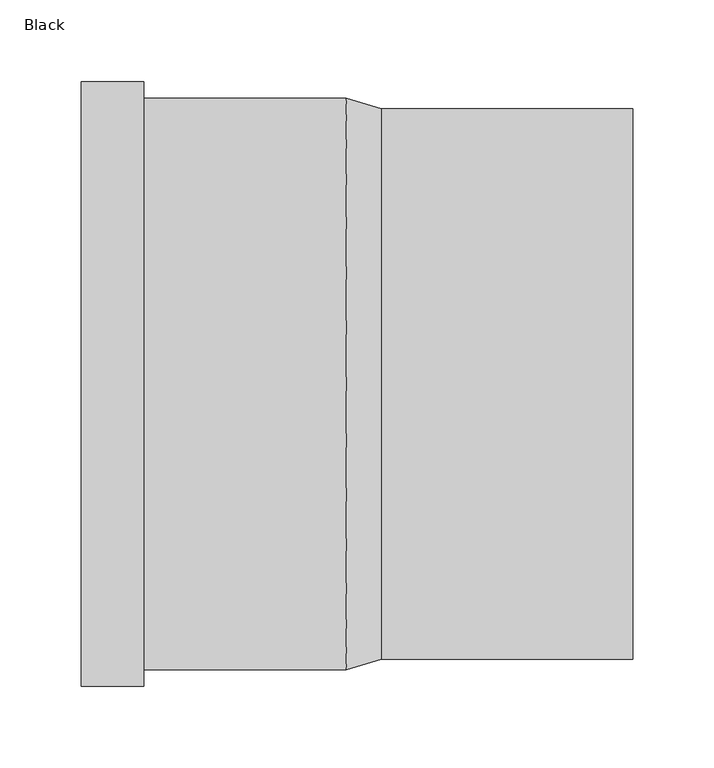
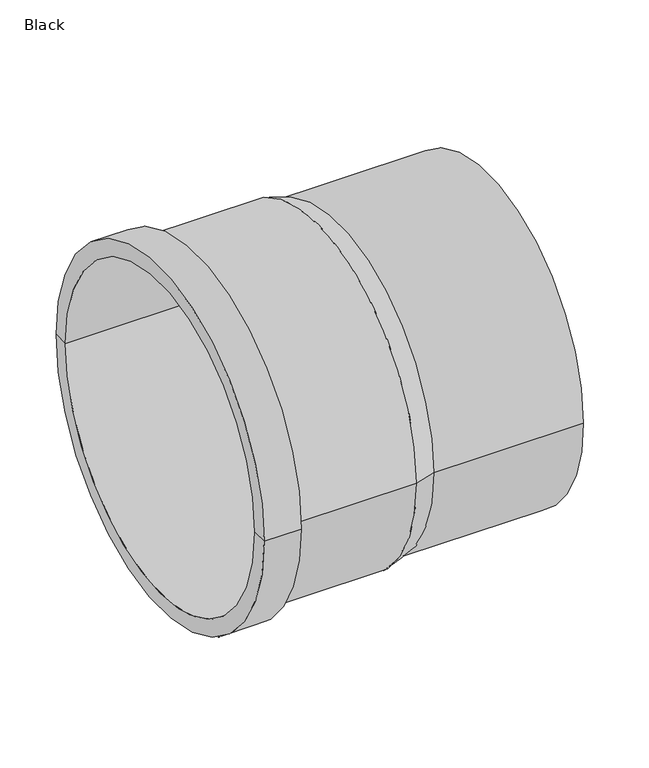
"""IFC4 building model written with IfcOpenShell, lengths in millimetres: pipe fitting geometry, PIF_X-Stream_TransitionCoupler_SocketEnd_X-Stream-PVC_Wavin_(union) : Black."""

from ifc_helpers import new_model, si_unit, point, frame, origin, origin_2d, place, context, project, spatial, polyline, circle_curve, trimmed, segment, composite_curve, outline, extrude, source, transform, mapped, element, save
from ifc_brep_helpers import plane_surface, cylinder_surface, revolved_surface, advanced_brep


def black_22d9a25e(model_context):
    return source(origin(), model_context, "Body", "SolidModel", [
        advanced_brep(
        [(-66.5, 169.0, 0.0), (-66.5, -169.0, 0.0), (-87.8, -175.4, 0.0), (-87.8, 175.4, 0.0), (-66.5, 0.0, 0.0), (-87.8, 169.0, 0.0), (-87.8, -169.0, 0.0), (-87.8, 0.0, 0.0), (-250.5, 169.0, 0.0), (-250.5, -169.0, 0.0), (-250.5, 185.7, 0.0), (-250.5, -185.7, 0.0), (-212.3, 185.7, 0.0), (-212.3, -185.7, 0.0), (-212.3, 175.4, 0.0), (-212.3, -175.4, 0.0)],
        [
            (0, 1, circle_curve(frame((-66.5, 0.0, 0.0), z_axis=(-1.0, 0.0, 0.0), x_axis=(0.0, -1.0, 0.0)), 169.0)),
            (1, 2),
            (2, 3, circle_curve(frame((-87.8, 0.0, 0.0), z_axis=(1.0, 0.0, 0.0), x_axis=(0.0, -1.0, 0.0)), 175.4)),
            (3, 0),
            (1, 0, circle_curve(frame((-66.5, 0.0, 0.0), z_axis=(-1.0, 0.0, 0.0), x_axis=(0.0, -1.0, 0.0)), 169.0)),
            (3, 2, circle_curve(frame((-87.8, 0.0, 0.0), z_axis=(1.0, 0.0, 0.0), x_axis=(0.0, -1.0, 0.0)), 175.4)),
            (4, 1),
            (0, 4),
            (5, 6, circle_curve(frame((-87.8, 0.0, 0.0), z_axis=(-1.0, 0.0, 0.0), x_axis=(0.0, -1.0, 0.0)), 169.0)),
            (6, 7),
            (7, 5),
            (6, 5, circle_curve(frame((-87.8, 0.0, 0.0), z_axis=(-1.0, 0.0, 0.0), x_axis=(0.0, -1.0, 0.0)), 169.0)),
            (8, 9, circle_curve(frame((-250.5, 0.0, 0.0), z_axis=(-1.0, 0.0, 0.0), x_axis=(0.0, -1.0, 0.0)), 169.0)),
            (9, 6),
            (5, 8),
            (9, 8, circle_curve(frame((-250.5, 0.0, 0.0), z_axis=(-1.0, 0.0, 0.0), x_axis=(0.0, -1.0, 0.0)), 169.0)),
            (10, 11, circle_curve(frame((-250.5, 0.0, 0.0), z_axis=(-1.0, 0.0, 0.0), x_axis=(0.0, -1.0, 0.0)), 185.7)),
            (11, 9),
            (8, 10),
            (11, 10, circle_curve(frame((-250.5, 0.0, 0.0), z_axis=(-1.0, 0.0, 0.0), x_axis=(0.0, -1.0, 0.0)), 185.7)),
            (12, 13, circle_curve(frame((-212.3, 0.0, 0.0), z_axis=(-1.0, 0.0, 0.0), x_axis=(0.0, -1.0, 0.0)), 185.7)),
            (13, 11),
            (10, 12),
            (13, 12, circle_curve(frame((-212.3, 0.0, 0.0), z_axis=(-1.0, 0.0, 0.0), x_axis=(0.0, -1.0, 0.0)), 185.7)),
            (14, 15, circle_curve(frame((-212.3, 0.0, 0.0), z_axis=(-1.0, 0.0, 0.0), x_axis=(0.0, -1.0, 0.0)), 175.4)),
            (15, 13),
            (12, 14),
            (15, 14, circle_curve(frame((-212.3, 0.0, 0.0), z_axis=(-1.0, 0.0, 0.0), x_axis=(0.0, -1.0, 0.0)), 175.4)),
            (2, 15),
            (14, 3),
        ],
        [
            revolved_surface(polyline([(-87.8, -175.4, 0.0), (-66.5, -169.0, 0.0)]), (-2153.6265064, 0.0, 0.0), (1.0, 0.0, 0.0)),
            plane_surface(frame((-66.5, 0.0, 0.0), z_axis=(1.0, 0.0, 0.0), x_axis=(0.0, -1.0, 0.0))),
            plane_surface(frame((-87.8, 0.0, 0.0), z_axis=(-1.0, 0.0, 0.0), x_axis=(0.0, -1.0, 0.0))),
            revolved_surface(polyline([(-87.80000000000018, -169.0, 0.0), (-250.5, -169.0, 0.0)]), (-2153.6265064, 0.0, 0.0), (1.0, 0.0, 0.0)),
            plane_surface(frame((-250.5, 0.0, 0.0), z_axis=(-1.0, 0.0, 0.0), x_axis=(0.0, -1.0, 0.0))),
            cylinder_surface(frame((-2153.6265064, 0.0, 0.0), z_axis=(1.0, 0.0, 0.0), x_axis=(0.0, -1.0, 0.0)), 185.7),
            plane_surface(frame((-212.3, 0.0, 0.0), z_axis=(1.0, 0.0, 0.0), x_axis=(0.0, -1.0, 0.0))),
            cylinder_surface(frame((-2153.6265064, 0.0, 0.0), z_axis=(1.0, 0.0, 0.0), x_axis=(0.0, -1.0, 0.0)), 175.4),
        ],
        [
            (0, [[1, 2, 3, 4]]),
            (0, [[5, -4, 6, -2]]),
            (1, [[7, -1, 8]]),
            (1, [[-8, -5, -7]]),
            (2, [[9, 10, 11]]),
            (2, [[12, -11, -10]]),
            (3, [[13, 14, -9, 15]]),
            (3, [[16, -15, -12, -14]]),
            (4, [[17, 18, -13, 19]]),
            (4, [[20, -19, -16, -18]]),
            (5, [[21, 22, -17, 23]]),
            (5, [[24, -23, -20, -22]]),
            (6, [[25, 26, -21, 27]]),
            (6, [[28, -27, -24, -26]]),
            (7, [[-3, 29, -25, 30]]),
            (7, [[-6, -30, -28, -29]]),
        ],
    ),
        extrude(outline(composite_curve([segment(trimmed(circle_curve(origin_2d(), 169.0), [point((-169.0, 0.0))], [point((169.0, 0.0))], False, "CARTESIAN"), True, "CONTINUOUS"), segment(trimmed(circle_curve(origin_2d(), 169.0), [point((169.0, 0.0))], [point((-169.0, 0.0))], False, "CARTESIAN"), True, "CONTINUOUS")], self_intersect=False)), frame((-87.8, 0.0, 0.0), z_axis=(1.0, 0.0, 0.0), x_axis=(0.0, 1.0, 0.0)), (0.0, 0.0, 1.0), 175.6),
    ])


if __name__ == "__main__":
    model = new_model("IFC4")
    model_context = context("Model", 3, world=origin())
    ifc_project = project(units=[si_unit("LENGTHUNIT", "METRE", prefix="MILLI")], contexts=[model_context])
    site = spatial("IfcSite", under=ifc_project)
    building = spatial("IfcBuilding", under=site)
    placement = place(None, origin())
    black_shape = black_22d9a25e(model_context)
    element("IfcPipeFitting", 1, ObjectType="PIF_X-Stream_TransitionCoupler_SocketEnd_X-Stream-PVC_Wavin_(union) : Black", at=placement, inside=building, context=model_context, shape_type="MappedRepresentation", body=[
        mapped(black_shape, transform((0.0, 0.0, 0.0), x_axis=(1.0, 0.0, 0.0), y_axis=(0.0, 1.0, 0.0), z_axis=(0.0, 0.0, 1.0))),
    ])
    save(model, "model.ifc")
